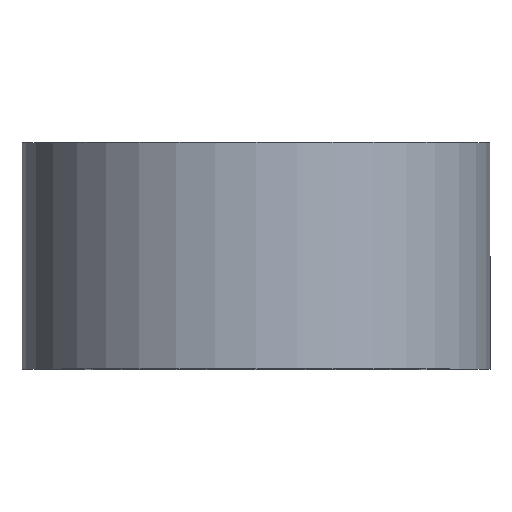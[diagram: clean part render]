
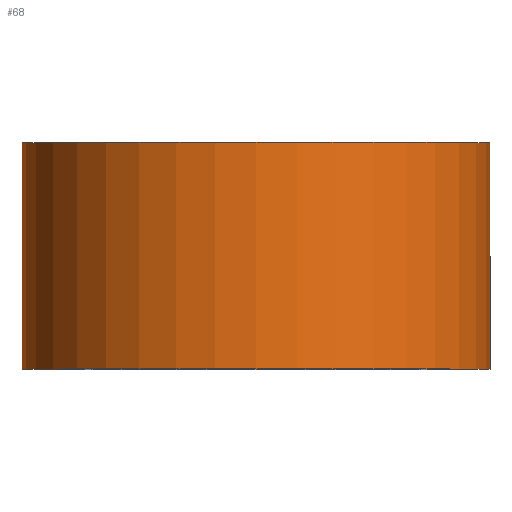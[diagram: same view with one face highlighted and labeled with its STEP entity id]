
A CAD part, top view. The second image highlights one B-rep face of the part: STEP entity #68.
In plain terms, the highlighted cylindrical face has radius 31 mm (diameter 62 mm), a partial arc.
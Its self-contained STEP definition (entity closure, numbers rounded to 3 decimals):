
#7 = AXIS2_PLACEMENT_3D ( 'NONE', #243, #154, #177 ) ;
#29 = CARTESIAN_POINT ( 'NONE',  ( 31., 0., 0. ) ) ;
#44 = VECTOR ( 'NONE', #103, 1000. ) ;
#45 = VERTEX_POINT ( 'NONE', #159 ) ;
#65 = EDGE_CURVE ( 'NONE', #95, #45, #250, .T. ) ;
#66 = FACE_OUTER_BOUND ( 'NONE', #101, .T. ) ;
#67 = ORIENTED_EDGE ( 'NONE', *, *, #72, .T. ) ;
#68 = ADVANCED_FACE ( 'NONE', ( #66 ), #194, .T. ) ;
#72 = EDGE_CURVE ( 'NONE', #109, #156, #188, .T. ) ;
#77 = CARTESIAN_POINT ( 'NONE',  ( -31., 0., 0. ) ) ;
#93 = CARTESIAN_POINT ( 'NONE',  ( 0., 30., 0. ) ) ;
#95 = VERTEX_POINT ( 'NONE', #200 ) ;
#101 = EDGE_LOOP ( 'NONE', ( #275, #67, #252, #225 ) ) ;
#103 = DIRECTION ( 'NONE',  ( 0., 1., 0. ) ) ;
#109 = VERTEX_POINT ( 'NONE', #131 ) ;
#118 = AXIS2_PLACEMENT_3D ( 'NONE', #226, #165, #270 ) ;
#120 = DIRECTION ( 'NONE',  ( 0., 1., 0. ) ) ;
#129 = VECTOR ( 'NONE', #199, 1000. ) ;
#131 = CARTESIAN_POINT ( 'NONE',  ( 31., 0., 0. ) ) ;
#135 = CARTESIAN_POINT ( 'NONE',  ( 31., 30., 0. ) ) ;
#154 = DIRECTION ( 'NONE',  ( 0., 1., 0. ) ) ;
#156 = VERTEX_POINT ( 'NONE', #135 ) ;
#159 = CARTESIAN_POINT ( 'NONE',  ( -31., 30., 0. ) ) ;
#165 = DIRECTION ( 'NONE',  ( 0., 1., 0. ) ) ;
#177 = DIRECTION ( 'NONE',  ( -1., 0., 0. ) ) ;
#187 = EDGE_CURVE ( 'NONE', #95, #109, #198, .T. ) ;
#188 = LINE ( 'NONE', #29, #129 ) ;
#194 = CYLINDRICAL_SURFACE ( 'NONE', #7, 31. ) ;
#198 = CIRCLE ( 'NONE', #118, 31. ) ;
#199 = DIRECTION ( 'NONE',  ( 0., 1., 0. ) ) ;
#200 = CARTESIAN_POINT ( 'NONE',  ( -31., 0., 0. ) ) ;
#225 = ORIENTED_EDGE ( 'NONE', *, *, #65, .F. ) ;
#226 = CARTESIAN_POINT ( 'NONE',  ( 0., 0., 0. ) ) ;
#234 = CIRCLE ( 'NONE', #235, 31. ) ;
#235 = AXIS2_PLACEMENT_3D ( 'NONE', #93, #120, #280 ) ;
#243 = CARTESIAN_POINT ( 'NONE',  ( 0., 0., 0. ) ) ;
#250 = LINE ( 'NONE', #77, #44 ) ;
#252 = ORIENTED_EDGE ( 'NONE', *, *, #284, .F. ) ;
#270 = DIRECTION ( 'NONE',  ( -1., 0., 0. ) ) ;
#275 = ORIENTED_EDGE ( 'NONE', *, *, #187, .T. ) ;
#280 = DIRECTION ( 'NONE',  ( -1., 0., 0. ) ) ;
#284 = EDGE_CURVE ( 'NONE', #45, #156, #234, .T. ) ;
